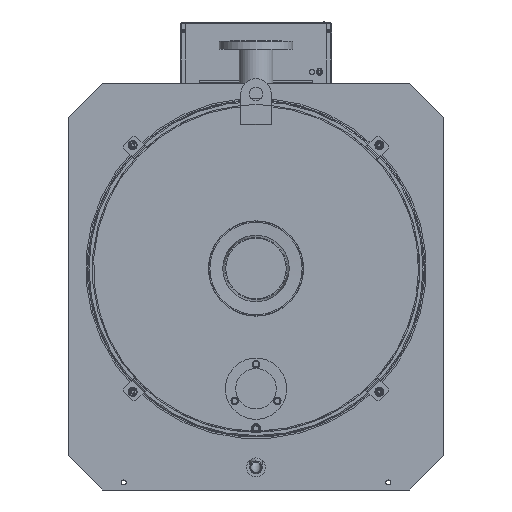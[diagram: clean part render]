
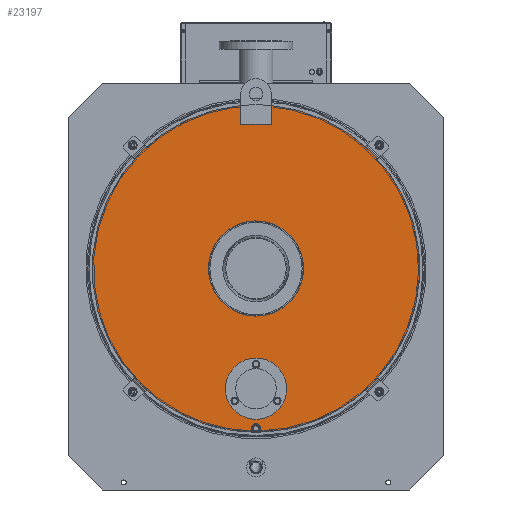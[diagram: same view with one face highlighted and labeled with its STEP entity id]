
A CAD part, left-side view. The second image highlights one B-rep face of the part: STEP entity #23197.
In plain terms, the highlighted planar face has unit normal (-1, 0, 0).
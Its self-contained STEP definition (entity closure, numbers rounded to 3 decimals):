
#23197=ADVANCED_FACE('',(#71947,#71949,#71951),#71953,.T.);
#71947=FACE_BOUND('',#71948,.T.);
#71948=EDGE_LOOP('',(#92878,#92879,#92880,#92881,#92882,#92883,#92884,#92885,#92886));
#71949=FACE_BOUND('',#71950,.T.);
#71950=EDGE_LOOP('',(#92887));
#71951=FACE_BOUND('',#71952,.T.);
#71952=EDGE_LOOP('',(#92888));
#71953=PLANE('',#71954);
#71954=AXIS2_PLACEMENT_3D('',#71955,#71956,#71957);
#71955=CARTESIAN_POINT('',(-1519.,0.,0.));
#71956=DIRECTION('',(-1.,0.,0.));
#71957=DIRECTION('',(0.,-1.,0.));
#92878=ORIENTED_EDGE('',*,*,#101566,.F.);
#92879=ORIENTED_EDGE('',*,*,#101567,.F.);
#92880=ORIENTED_EDGE('',*,*,#101568,.F.);
#92881=ORIENTED_EDGE('',*,*,#101544,.T.);
#92882=ORIENTED_EDGE('',*,*,#101543,.T.);
#92883=ORIENTED_EDGE('',*,*,#101569,.T.);
#92884=ORIENTED_EDGE('',*,*,#101570,.T.);
#92885=ORIENTED_EDGE('',*,*,#101571,.T.);
#92886=ORIENTED_EDGE('',*,*,#101546,.T.);
#92887=ORIENTED_EDGE('',*,*,#101572,.T.);
#92888=ORIENTED_EDGE('',*,*,#101573,.F.);
#101543=EDGE_CURVE('',#113020,#113018,#113021,.T.);
#101544=EDGE_CURVE('',#113022,#113020,#113023,.T.);
#101546=EDGE_CURVE('',#113026,#113024,#113027,.T.);
#101566=EDGE_CURVE('',#113059,#113024,#113060,.T.);
#101567=EDGE_CURVE('',#113061,#113059,#113062,.T.);
#101568=EDGE_CURVE('',#113022,#113061,#113063,.T.);
#101569=EDGE_CURVE('',#113018,#113064,#113065,.F.);
#101570=EDGE_CURVE('',#113064,#113066,#113067,.F.);
#101571=EDGE_CURVE('',#113066,#113026,#113068,.F.);
#101572=EDGE_CURVE('',#113069,#113069,#113070,.F.);
#101573=EDGE_CURVE('',#113071,#113071,#113072,.T.);
#113018=VERTEX_POINT('',#164182);
#113020=VERTEX_POINT('',#164186);
#113021=CIRCLE('',#164187,433.);
#113022=VERTEX_POINT('',#164191);
#113023=CIRCLE('',#164192,433.);
#113024=VERTEX_POINT('',#164196);
#113026=VERTEX_POINT('',#164201);
#113027=CIRCLE('',#164202,433.);
#113059=VERTEX_POINT('',#164290);
#113060=LINE('',#164291,#164292);
#113061=VERTEX_POINT('',#164294);
#113062=LINE('',#164295,#164296);
#113063=LINE('',#164298,#164299);
#113064=VERTEX_POINT('',#164301);
#113065=LINE('',#164302,#164303);
#113066=VERTEX_POINT('',#164305);
#113067=CIRCLE('',#164306,11.);
#113068=LINE('',#164310,#164311);
#113069=VERTEX_POINT('',#164313);
#113070=CIRCLE('',#164314,126.);
#113071=VERTEX_POINT('',#164318);
#113072=CIRCLE('',#164319,81.);
#164182=CARTESIAN_POINT('',(-1519.,4.583,-432.976));
#164186=CARTESIAN_POINT('',(-1519.,305.91,-306.444));
#164187=AXIS2_PLACEMENT_3D('',#164188,#164189,#164190);
#164188=CARTESIAN_POINT('',(-1519.,0.,0.));
#164189=DIRECTION('',(-1.,0.,0.));
#164190=DIRECTION('',(0.,0.706,-0.708));
#164191=CARTESIAN_POINT('',(-1519.,40.,431.148));
#164192=AXIS2_PLACEMENT_3D('',#164193,#164194,#164195);
#164193=CARTESIAN_POINT('',(-1519.,0.,0.));
#164194=DIRECTION('',(-1.,0.,0.));
#164195=DIRECTION('',(0.,0.092,0.996));
#164196=CARTESIAN_POINT('',(-1519.,-40.,431.148));
#164201=CARTESIAN_POINT('',(-1519.,-4.583,-432.976));
#164202=AXIS2_PLACEMENT_3D('',#164203,#164204,#164205);
#164203=CARTESIAN_POINT('',(-1519.,0.,0.));
#164204=DIRECTION('',(-1.,0.,0.));
#164205=DIRECTION('',(0.,-0.011,-1.));
#164290=CARTESIAN_POINT('',(-1519.,-40.,382.));
#164291=CARTESIAN_POINT('',(-1519.,-40.,382.));
#164292=VECTOR('',#164293,1.);
#164293=DIRECTION('',(0.,0.,1.));
#164294=CARTESIAN_POINT('',(-1519.,40.,382.));
#164295=CARTESIAN_POINT('',(-1519.,40.,382.));
#164296=VECTOR('',#164297,1.);
#164297=DIRECTION('',(0.,-1.,0.));
#164298=CARTESIAN_POINT('',(-1519.,40.,431.148));
#164299=VECTOR('',#164300,1.);
#164300=DIRECTION('',(0.,0.,-1.));
#164301=CARTESIAN_POINT('',(-1519.,4.583,-432.));
#164302=CARTESIAN_POINT('',(-1519.,4.583,-432.));
#164303=VECTOR('',#164304,1.);
#164304=DIRECTION('',(0.,0.,-1.));
#164305=CARTESIAN_POINT('',(-1519.,-4.583,-432.));
#164306=AXIS2_PLACEMENT_3D('',#164307,#164308,#164309);
#164307=CARTESIAN_POINT('',(-1519.,0.,-422.));
#164308=DIRECTION('',(-1.,0.,0.));
#164309=DIRECTION('',(0.,-0.417,-0.909));
#164310=CARTESIAN_POINT('',(-1519.,-4.583,-432.976));
#164311=VECTOR('',#164312,1.);
#164312=DIRECTION('',(0.,0.,1.));
#164313=CARTESIAN_POINT('',(-1519.,-126.,0.));
#164314=AXIS2_PLACEMENT_3D('',#164315,#164316,#164317);
#164315=CARTESIAN_POINT('',(-1519.,0.,0.));
#164316=DIRECTION('',(-1.,0.,0.));
#164317=DIRECTION('',(0.,-1.,0.));
#164318=CARTESIAN_POINT('',(-1519.,-81.,-318.));
#164319=AXIS2_PLACEMENT_3D('',#164320,#164321,#164322);
#164320=CARTESIAN_POINT('',(-1519.,0.,-318.));
#164321=DIRECTION('',(-1.,0.,0.));
#164322=DIRECTION('',(0.,-1.,0.));
